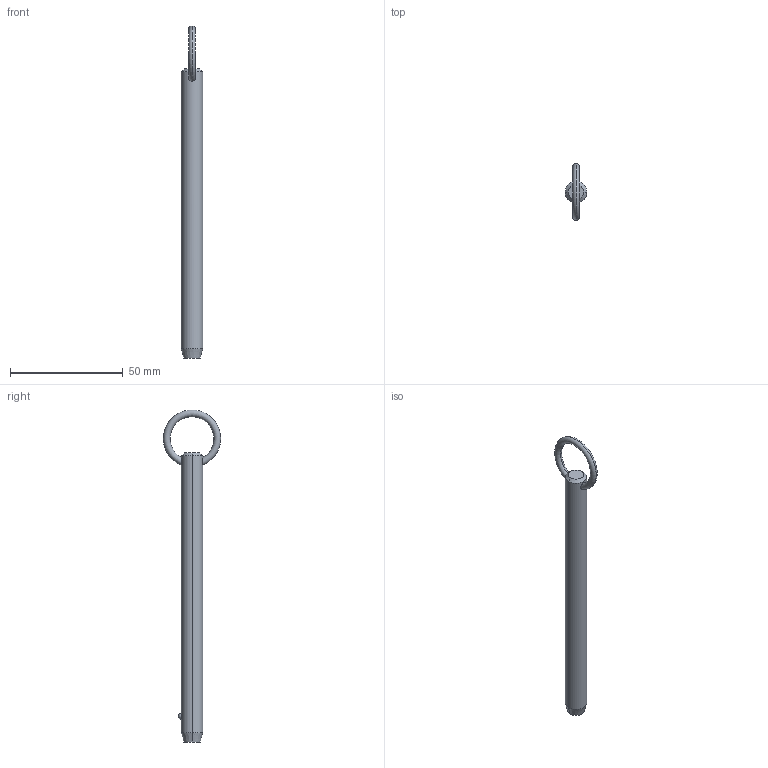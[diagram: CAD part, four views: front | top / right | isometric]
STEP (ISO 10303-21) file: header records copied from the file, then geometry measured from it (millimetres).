
FILE_DESCRIPTION (( 'STEP AP203' ), '1' );
FILE_NAME ('P1250.037-430.step', '2019-07-29T20:10:55', ( '' ), ( '' ), 'SwSTEP 2.0', 'SolidWorks 2017', '' );
FILE_SCHEMA (( 'CONFIG_CONTROL_DESIGN' ));
Length unit declared in the file: millimetre
Products named in the file (1): P1250.037-430
Bounding box: 9.52 x 25.39 x 147.3 mm (x, y, z)
Volume: 9480.1 mm3; surface area: 4477.9 mm2
Topology: 1 solids, 1 shells, 12 faces, 28 edges, 17 vertices
Faces by surface type: cone 4, torus 2, sphere 2, cylinder 2, plane 2
Entity records: 523 total; most frequent: CARTESIAN_POINT 190, DIRECTION 56, ORIENTED_EDGE 48, AXIS2_PLACEMENT_3D 25, EDGE_CURVE 24, EDGE_LOOP 15, VERTEX_POINT 15, FACE_OUTER_BOUND 12
